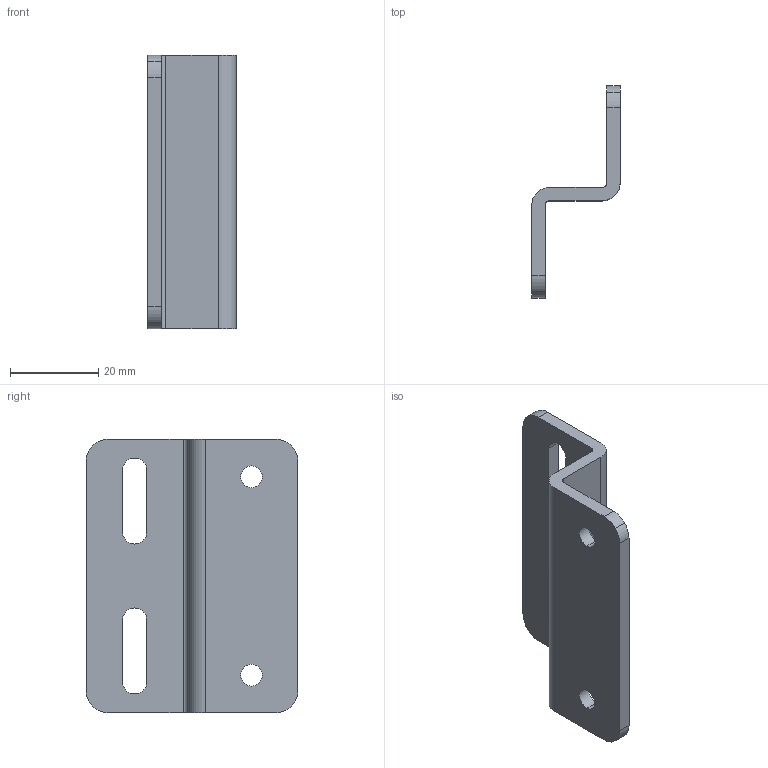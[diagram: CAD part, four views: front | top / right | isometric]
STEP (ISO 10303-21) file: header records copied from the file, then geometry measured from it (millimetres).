
FILE_DESCRIPTION((''),'2;1');
FILE_NAME('I:\DOC-EDP\Lib-3d\FRL\17350.stp','2003-06-16T15:01:17',('maffial1'),(''),'Autodesk Inventor 7','Autodesk Inventor 7','');
FILE_SCHEMA(('AUTOMOTIVE_DESIGN { 1 0 10303 214 1 1 1 1 }'));
Length unit declared in the file: millimetre
Products named in the file (1): 17350
Bounding box: 20 x 48 x 62 mm (x, y, z)
Volume: 10908 mm3; surface area: 8359.7 mm2
Topology: 1 solids, 1 shells, 34 faces, 96 edges, 64 vertices
Faces by surface type: cylinder 16, plane 14, bspline 4
Entity records: 1211 total; most frequent: CARTESIAN_POINT 263, DIRECTION 198, ORIENTED_EDGE 192, EDGE_CURVE 96, AXIS2_PLACEMENT_3D 71, VERTEX_POINT 64, VECTOR 56, LINE 56
